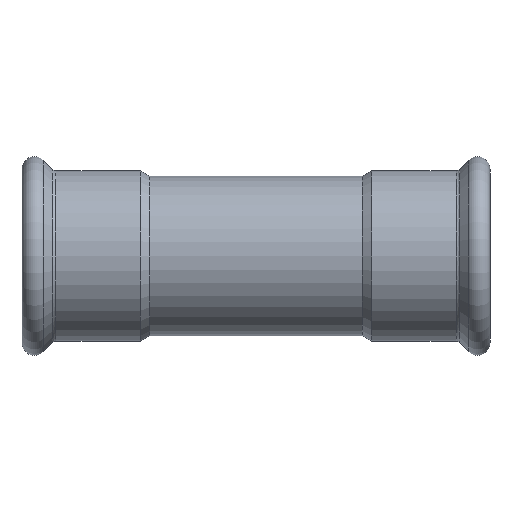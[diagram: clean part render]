
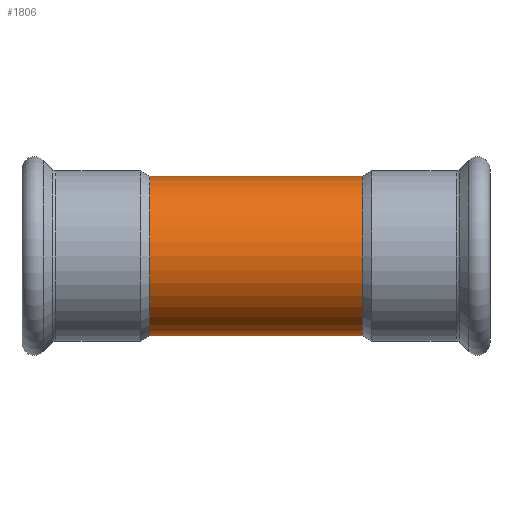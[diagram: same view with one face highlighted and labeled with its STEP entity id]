
A CAD part, front view. The second image highlights one B-rep face of the part: STEP entity #1806.
In plain terms, the highlighted cylindrical face has radius 32 mm (diameter 64 mm), a full revolution.
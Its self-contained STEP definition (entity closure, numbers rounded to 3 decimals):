
#1627=CARTESIAN_POINT('',(0.,29.569,12.235));
#1628=VERTEX_POINT('',#1627);
#1696=CARTESIAN_POINT('',(0.,29.568,12.235));
#1697=CARTESIAN_POINT('',(0.,29.568,12.235));
#1698=CARTESIAN_POINT('',(0.,29.568,12.235));
#1699=CARTESIAN_POINT('',(0.,29.568,12.235));
#1700=CARTESIAN_POINT('',(0.488,29.568,12.235));
#1701=CARTESIAN_POINT('',(1.467,29.59,12.184));
#1702=CARTESIAN_POINT('',(3.407,29.718,11.87));
#1703=CARTESIAN_POINT('',(5.243,29.959,11.261));
#1704=CARTESIAN_POINT('',(6.95,30.276,10.371));
#1705=CARTESIAN_POINT('',(8.132,30.537,9.578));
#1706=CARTESIAN_POINT('',(9.204,30.807,8.676));
#1707=CARTESIAN_POINT('',(10.282,31.107,7.544));
#1708=CARTESIAN_POINT('',(11.285,31.415,6.163));
#1709=CARTESIAN_POINT('',(12.131,31.694,4.523));
#1710=CARTESIAN_POINT('',(12.621,31.865,3.045));
#1711=CARTESIAN_POINT('',(12.865,31.952,1.835));
#1712=CARTESIAN_POINT('',(13.012,32.004,0.618));
#1713=CARTESIAN_POINT('',(13.012,32.004,-0.62));
#1714=CARTESIAN_POINT('',(12.864,31.951,-1.844));
#1715=CARTESIAN_POINT('',(12.621,31.865,-3.045));
#1716=CARTESIAN_POINT('',(12.134,31.695,-4.519));
#1717=CARTESIAN_POINT('',(11.28,31.413,-6.171));
#1718=CARTESIAN_POINT('',(10.192,31.079,-7.668));
#1719=CARTESIAN_POINT('',(8.867,30.715,-9.009));
#1720=CARTESIAN_POINT('',(7.612,30.417,-9.951));
#1721=CARTESIAN_POINT('',(6.525,30.196,-10.596));
#1722=CARTESIAN_POINT('',(5.381,29.991,-11.167));
#1723=CARTESIAN_POINT('',(4.17,29.818,-11.617));
#1724=CARTESIAN_POINT('',(2.92,29.692,-11.934));
#1725=CARTESIAN_POINT('',(0.99,29.55,-12.281));
#1726=CARTESIAN_POINT('',(-0.988,29.55,-12.282));
#1727=CARTESIAN_POINT('',(-2.917,29.691,-11.935));
#1728=CARTESIAN_POINT('',(-4.169,29.818,-11.617));
#1729=CARTESIAN_POINT('',(-5.68,30.033,-11.057));
#1730=CARTESIAN_POINT('',(-7.37,30.36,-10.133));
#1731=CARTESIAN_POINT('',(-8.87,30.716,-9.006));
#1732=CARTESIAN_POINT('',(-10.191,31.079,-7.669));
#1733=CARTESIAN_POINT('',(-11.163,31.377,-6.332));
#1734=CARTESIAN_POINT('',(-12.051,31.666,-4.714));
#1735=CARTESIAN_POINT('',(-12.686,31.887,-2.95));
#1736=CARTESIAN_POINT('',(-13.012,32.004,-0.928));
#1737=CARTESIAN_POINT('',(-13.012,32.004,0.932));
#1738=CARTESIAN_POINT('',(-12.718,31.899,2.75));
#1739=CARTESIAN_POINT('',(-12.134,31.695,4.52));
#1740=CARTESIAN_POINT('',(-11.423,31.46,5.896));
#1741=CARTESIAN_POINT('',(-10.738,31.247,6.917));
#1742=CARTESIAN_POINT('',(-9.778,30.961,8.138));
#1743=CARTESIAN_POINT('',(-8.514,30.621,9.324));
#1744=CARTESIAN_POINT('',(-6.948,30.276,10.371));
#1745=CARTESIAN_POINT('',(-5.673,30.038,11.038));
#1746=CARTESIAN_POINT('',(-4.324,29.838,11.566));
#1747=CARTESIAN_POINT('',(-2.456,29.635,12.077));
#1748=CARTESIAN_POINT('',(-0.976,29.568,12.235));
#1749=CARTESIAN_POINT('',(0.,29.568,12.235));
#1750=B_SPLINE_CURVE_WITH_KNOTS('',3,(#1696,#1697,#1698,#1699,#1700,#1701,#1702,#1703,#1704,#1705,#1706,#1707,#1708,#1709,#1710,#1711,#1712,#1713,#1714,#1715,#1716,#1717,#1718,#1719,#1720,#1721,#1722,#1723,#1724,#1725,#1726,#1727,#1728,#1729,#1730,#1731,#1732,#1733,#1734,#1735,#1736,#1737,#1738,#1739,#1740,#1741,#1742,#1743,#1744,#1745,#1746,#1747,#1748,#1749),.UNSPECIFIED.,.T.,.U.,(4,3,1,1,1,1,1,1,1,1,1,1,1,1,1,1,1,1,1,1,1,1,1,1,1,1,1,1,1,1,1,1,1,1,1,1,1,1,1,1,1,1,1,1,1,1,1,1,1,4),(-6.689,-6.689,-6.57,-6.45,-6.211,-6.092,-5.972,-5.853,-5.734,-5.574,-5.415,-5.256,-5.176,-5.096,-4.937,-4.858,-4.778,-4.619,-4.459,-4.3,-4.141,-3.982,-3.902,-3.822,-3.663,-3.583,-3.504,-3.185,-3.106,-3.026,-2.867,-2.708,-2.548,-2.389,-2.23,-2.124,-1.911,-1.752,-1.593,-1.433,-1.274,-1.115,-1.035,-0.956,-0.717,-0.597,-0.478,-0.358,-0.239,0.),.UNSPECIFIED.);
#1751=EDGE_CURVE('',#1628,#1628,#1750,.T.);
#1776=CARTESIAN_POINT('',(0.,0.,0.0));
#1777=DIRECTION('',(1.0,0.,0.0));
#1778=DIRECTION('',(0.0,1.0,0.0));
#1779=AXIS2_PLACEMENT_3D('',#1776,#1777,#1778);
#1780=CYLINDRICAL_SURFACE('',#1779,32.);
#1781=CARTESIAN_POINT('',(-42.654,32.,0.0));
#1782=VERTEX_POINT('',#1781);
#1783=CARTESIAN_POINT('',(-42.654,0.,0.0));
#1784=DIRECTION('',(1.0,0.0,0.0));
#1785=DIRECTION('',(0.0,1.0,0.0));
#1786=AXIS2_PLACEMENT_3D('',#1783,#1784,#1785);
#1787=CIRCLE('',#1786,32.);
#1788=EDGE_CURVE('',#1782,#1782,#1787,.T.);
#1789=ORIENTED_EDGE('',*,*,#1788,.T.);
#1790=EDGE_LOOP('',(#1789));
#1791=FACE_OUTER_BOUND('',#1790,.T.);
#1792=CARTESIAN_POINT('',(42.654,32.,0.0));
#1793=VERTEX_POINT('',#1792);
#1794=CARTESIAN_POINT('',(42.654,0.,0.0));
#1795=DIRECTION('',(1.0,0.0,0.0));
#1796=DIRECTION('',(0.0,1.0,0.0));
#1797=AXIS2_PLACEMENT_3D('',#1794,#1795,#1796);
#1798=CIRCLE('',#1797,32.);
#1799=EDGE_CURVE('',#1793,#1793,#1798,.T.);
#1800=ORIENTED_EDGE('',*,*,#1799,.F.);
#1801=EDGE_LOOP('',(#1800));
#1802=FACE_BOUND('',#1801,.T.);
#1803=ORIENTED_EDGE('',*,*,#1751,.F.);
#1804=EDGE_LOOP('',(#1803));
#1805=FACE_BOUND('',#1804,.T.);
#1806=ADVANCED_FACE('',(#1791,#1802,#1805),#1780,.T.);
